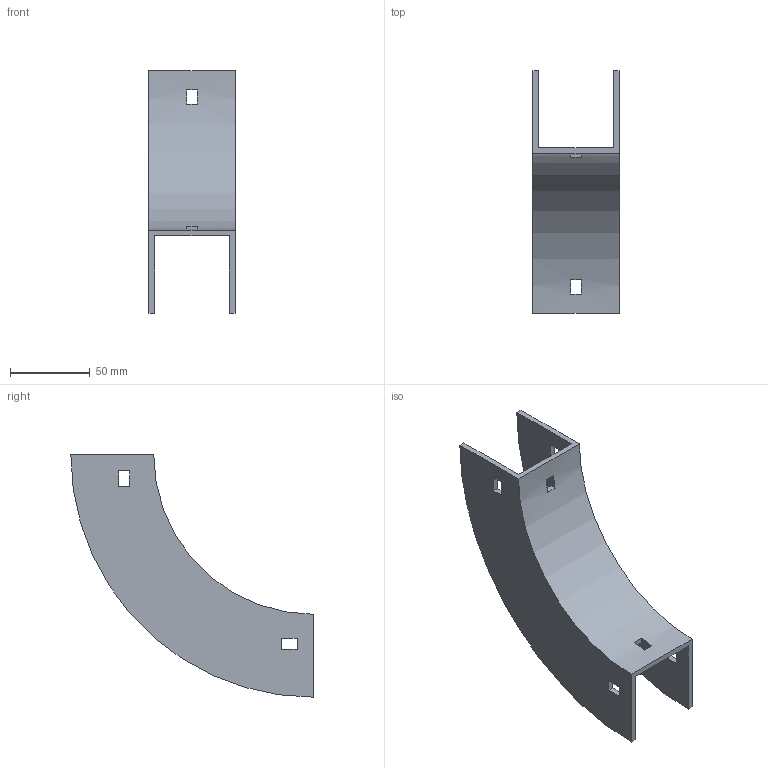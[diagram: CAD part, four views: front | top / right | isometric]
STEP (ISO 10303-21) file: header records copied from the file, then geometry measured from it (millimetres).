
FILE_DESCRIPTION (( 'STEP AP214' ), '1' );
FILE_NAME ('33B1B050.step', '2025-02-21T09:31:17', ( '' ), ( '' ), 'SwSTEP 2.0', 'SolidWorks 2023', '' );
FILE_SCHEMA (( 'AUTOMOTIVE_DESIGN' ));
Length unit declared in the file: millimetre
Products named in the file (1): 33B1B050
Bounding box: 54 x 152 x 152 mm (x, y, z)
Volume: 96939.7 mm3; surface area: 58799.2 mm2
Topology: 1 solids, 1 shells, 34 faces, 96 edges, 64 vertices
Faces by surface type: plane 30, cylinder 4
Entity records: 1143 total; most frequent: CARTESIAN_POINT 195, ORIENTED_EDGE 192, DIRECTION 182, EDGE_CURVE 96, LINE 80, VECTOR 80, VERTEX_POINT 64, AXIS2_PLACEMENT_3D 51
